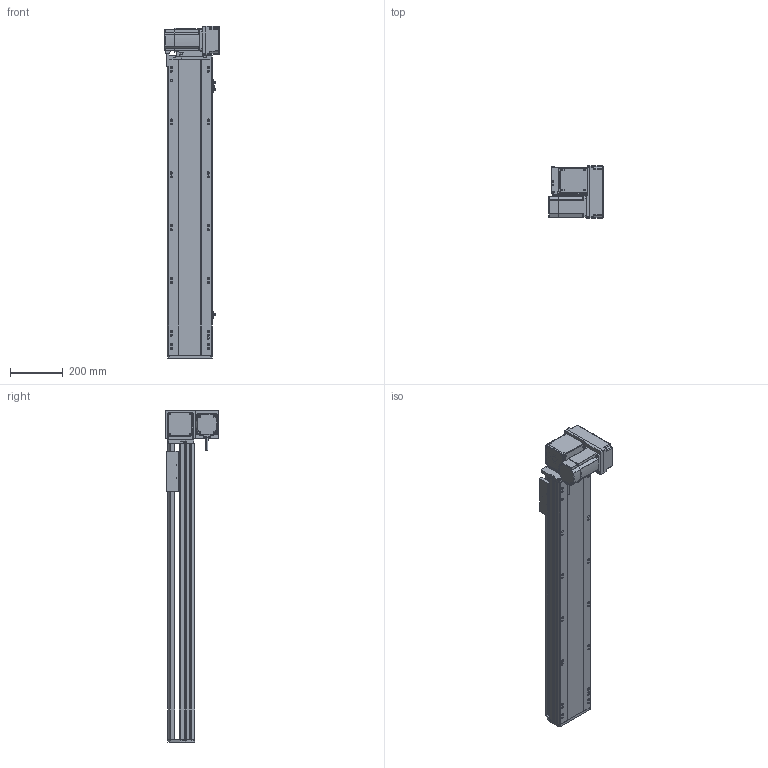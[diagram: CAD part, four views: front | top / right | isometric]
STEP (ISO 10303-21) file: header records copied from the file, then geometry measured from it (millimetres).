
FILE_DESCRIPTION (( 'STEP AP214' ), '1' );
FILE_NAME ('RTB17S-XX-850-RM-M75-C4.STEP', '2025-12-12T02:04:27', ( '' ), ( '' ), 'SwSTEP 2.0', 'SolidWorks 2018', '' );
FILE_SCHEMA (( 'AUTOMOTIVE_DESIGN' ));
Length unit declared in the file: millimetre
Products named in the file (15): RTB17S-RM-々湍釱蚾饜-750W^RTB17S-XX-XX-RM-M75-C4; RTB22S-GY-008-M75--萇儂啣^RTB17S-RM-々湍釱蚾饜-750W_RTB17S-XX-XX-RM-M75-C4; RTB22S-GY-017P^RTB17S-RM-々湍釱蚾饜-750W_RTB17S-XX-XX-RM-M75-C4; RTB17S-L-014-T20-P75--々湍釱^RTB17S-RM-々湍釱蚾饜-750W_RTB17S-XX-XX-RM-M75-C4; 750W萇儂^RTB17S-XX-XX-RM-M75-C4; RTB17S-XX-850-RM-M75-C4; EE672^RTB17S-XX-XX-RM-M75-C4; RTH13-BL-012覜茼え俋离^RTB17S-賑釱_RTB17S-XX-XX-RM-M75-C4; RTB22S-GY-018P^RTB17S-RM-々湍釱蚾饜-750W_RTB17S-XX-XX-RM-M75-C4; RTB17S-賑釱^RTB17S-XX-XX-RM-M75-C4; RTB17-R-011菁釱^RTB17S-XX-XX-RM-M75-C4; RTB22S-GY-005P^RTB17S-RM-々湍釱蚾饜-750W_RTB17S-XX-XX-RM-M75-C4; RTB17S-L-007奻裔^RTB17S-XX-XX-RM-M75-C4; RTB17S-L-001-耜醱啣^RTB17S-XX-XX-RM-M75-C4; RTB17S-L-004-賑釱^RTB17S-賑釱_RTB17S-XX-XX-RM-M75-C4
Assembly tree (17 placements, depth 3):
  RTB17S-XX-850-RM-M75-C4
    RTB17-R-011菁釱^RTB17S-XX-XX-RM-M75-C4
    EE672^RTB17S-XX-XX-RM-M75-C4  x3
    RTB17S-L-001-耜醱啣^RTB17S-XX-XX-RM-M75-C4
    RTB17S-賑釱^RTB17S-XX-XX-RM-M75-C4
      RTB17S-L-004-賑釱^RTB17S-賑釱_RTB17S-XX-XX-RM-M75-C4
      RTH13-BL-012覜茼え俋离^RTB17S-賑釱_RTB17S-XX-XX-RM-M75-C4
    RTB17S-L-007奻裔^RTB17S-XX-XX-RM-M75-C4
    750W萇儂^RTB17S-XX-XX-RM-M75-C4
    RTB17S-RM-々湍釱蚾饜-750W^RTB17S-XX-XX-RM-M75-C4
      RTB17S-L-014-T20-P75--々湍釱^RTB17S-RM-々湍釱蚾饜-750W_RTB17S-XX-XX-RM-M75-C4
      RTB22S-GY-005P^RTB17S-RM-々湍釱蚾饜-750W_RTB17S-XX-XX-RM-M75-C4
      RTB22S-GY-017P^RTB17S-RM-々湍釱蚾饜-750W_RTB17S-XX-XX-RM-M75-C4  x2
      RTB22S-GY-008-M75--萇儂啣^RTB17S-RM-々湍釱蚾饜-750W_RTB17S-XX-XX-RM-M75-C4
      RTB22S-GY-018P^RTB17S-RM-々湍釱蚾饜-750W_RTB17S-XX-XX-RM-M75-C4
Bounding box: 207.4 x 200 x 1257.5 mm (x, y, z)
Volume: 11258223 mm3; surface area: 1888468.3 mm2
Topology: 17 solids, 17 shells, 2089 faces, 5782 edges, 3734 vertices
Faces by surface type: plane 970, cylinder 703, bspline 294, cone 110, sphere 8, torus 4
Entity records: 58102 total; most frequent: CARTESIAN_POINT 17046, ORIENTED_EDGE 8408, DIRECTION 7862, EDGE_CURVE 4204, AXIS2_PLACEMENT_3D 2754, VERTEX_POINT 2738, VECTOR 2354, LINE 2354
